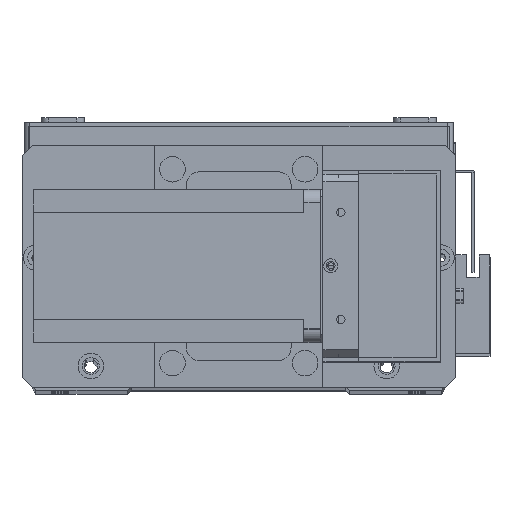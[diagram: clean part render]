
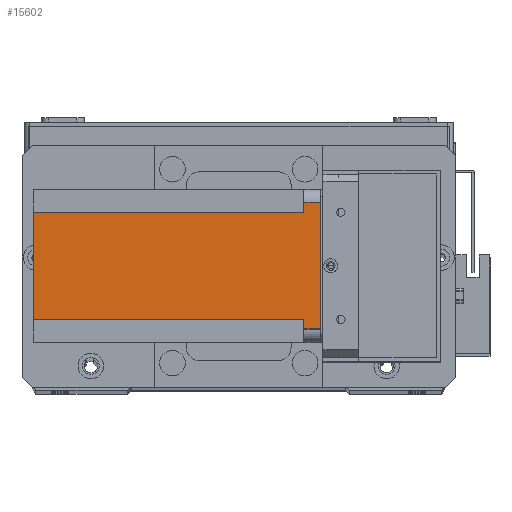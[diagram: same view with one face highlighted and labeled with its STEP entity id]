
A CAD part, top view. The second image highlights one B-rep face of the part: STEP entity #15602.
In plain terms, the highlighted planar face has unit normal (0, 0, 1) as drawn and (-1, 0, 0) by its records, which use the part's own axes.
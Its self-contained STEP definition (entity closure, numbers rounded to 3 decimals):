
#416 = DIRECTION ( 'NONE',  ( 0., 1., 0. ) ) ;
#1163 = VERTEX_POINT ( 'NONE', #27550 ) ;
#1375 = LINE ( 'NONE', #24754, #21708 ) ;
#1745 = LINE ( 'NONE', #30564, #26623 ) ;
#2895 = ORIENTED_EDGE ( 'NONE', *, *, #28637, .T. ) ;
#3801 = ORIENTED_EDGE ( 'NONE', *, *, #28718, .F. ) ;
#4384 = DIRECTION ( 'NONE',  ( 0., -1., 0. ) ) ;
#5599 = VECTOR ( 'NONE', #23773, 1000. ) ;
#7854 = CARTESIAN_POINT ( 'NONE',  ( 0., 51., -112.5 ) ) ;
#7948 = VECTOR ( 'NONE', #416, 1000. ) ;
#8293 = VERTEX_POINT ( 'NONE', #16085 ) ;
#9298 = CARTESIAN_POINT ( 'NONE',  ( 0., 51., -112.5 ) ) ;
#9588 = CARTESIAN_POINT ( 'NONE',  ( 0., 5., -6.5 ) ) ;
#9892 = VECTOR ( 'NONE', #4384, 1000. ) ;
#10283 = LINE ( 'NONE', #15137, #7948 ) ;
#10355 = DIRECTION ( 'NONE',  ( 0., 0., 1. ) ) ;
#10647 = VECTOR ( 'NONE', #11744, 1000. ) ;
#10779 = CARTESIAN_POINT ( 'NONE',  ( 0., 55., -112.5 ) ) ;
#11001 = CARTESIAN_POINT ( 'NONE',  ( 0., 55., -6.5 ) ) ;
#11427 = LINE ( 'NONE', #30365, #5599 ) ;
#11744 = DIRECTION ( 'NONE',  ( 0., 0., 1. ) ) ;
#11965 = VERTEX_POINT ( 'NONE', #22186 ) ;
#12593 = VECTOR ( 'NONE', #24783, 1000. ) ;
#12692 = DIRECTION ( 'NONE',  ( 0., -1., 0. ) ) ;
#12737 = DIRECTION ( 'NONE',  ( -1., 0., 0. ) ) ;
#12769 = PLANE ( 'NONE',  #16892 ) ;
#12866 = VERTEX_POINT ( 'NONE', #14838 ) ;
#12959 = VECTOR ( 'NONE', #13265, 1000. ) ;
#13005 = CARTESIAN_POINT ( 'NONE',  ( 0., 0., -112.5 ) ) ;
#13265 = DIRECTION ( 'NONE',  ( 0., 0., -1. ) ) ;
#13752 = LINE ( 'NONE', #10779, #12959 ) ;
#14525 = DIRECTION ( 'NONE',  ( 0., 0., -1. ) ) ;
#14838 = CARTESIAN_POINT ( 'NONE',  ( 0., 5., 0. ) ) ;
#15137 = CARTESIAN_POINT ( 'NONE',  ( 0., 0., -6.5 ) ) ;
#15169 = CARTESIAN_POINT ( 'NONE',  ( 0., 0., 0. ) ) ;
#15602 = ADVANCED_FACE ( 'NONE', ( #23260 ), #12769, .T. ) ;
#15693 = VERTEX_POINT ( 'NONE', #11001 ) ;
#16085 = CARTESIAN_POINT ( 'NONE',  ( 0., 51., -6.5 ) ) ;
#16322 = LINE ( 'NONE', #21523, #9892 ) ;
#16892 = AXIS2_PLACEMENT_3D ( 'NONE', #13005, #12737, #12692 ) ;
#17568 = VERTEX_POINT ( 'NONE', #9588 ) ;
#19987 = VERTEX_POINT ( 'NONE', #7854 ) ;
#21350 = CARTESIAN_POINT ( 'NONE',  ( 0., 9., -6.5 ) ) ;
#21523 = CARTESIAN_POINT ( 'NONE',  ( 0., 0., -112.5 ) ) ;
#21708 = VECTOR ( 'NONE', #10355, 1000. ) ;
#22011 = EDGE_LOOP ( 'NONE', ( #26728, #28406, #29054, #29809, #30077, #30872, #2895, #3801 ) ) ;
#22186 = CARTESIAN_POINT ( 'NONE',  ( 0., 55., 0. ) ) ;
#22697 = VERTEX_POINT ( 'NONE', #21350 ) ;
#23260 = FACE_OUTER_BOUND ( 'NONE', #22011, .T. ) ;
#23533 = LINE ( 'NONE', #9298, #10647 ) ;
#23773 = DIRECTION ( 'NONE',  ( 0., 1., 0. ) ) ;
#24588 = LINE ( 'NONE', #15169, #12593 ) ;
#24754 = CARTESIAN_POINT ( 'NONE',  ( 0., 5., -112.5 ) ) ;
#24783 = DIRECTION ( 'NONE',  ( 0., -1., 0. ) ) ;
#26623 = VECTOR ( 'NONE', #14525, 1000. ) ;
#26728 = ORIENTED_EDGE ( 'NONE', *, *, #28415, .F. ) ;
#27550 = CARTESIAN_POINT ( 'NONE',  ( 0., 9., -112.5 ) ) ;
#28034 = EDGE_CURVE ( 'NONE', #11965, #12866, #24588, .T. ) ;
#28406 = ORIENTED_EDGE ( 'NONE', *, *, #28420, .T. ) ;
#28415 = EDGE_CURVE ( 'NONE', #17568, #22697, #10283, .T. ) ;
#28420 = EDGE_CURVE ( 'NONE', #17568, #12866, #1375, .T. ) ;
#28473 = EDGE_CURVE ( 'NONE', #11965, #15693, #13752, .T. ) ;
#28610 = EDGE_CURVE ( 'NONE', #8293, #15693, #11427, .T. ) ;
#28612 = EDGE_CURVE ( 'NONE', #19987, #8293, #23533, .T. ) ;
#28637 = EDGE_CURVE ( 'NONE', #19987, #1163, #16322, .T. ) ;
#28718 = EDGE_CURVE ( 'NONE', #22697, #1163, #1745, .T. ) ;
#29054 = ORIENTED_EDGE ( 'NONE', *, *, #28034, .F. ) ;
#29809 = ORIENTED_EDGE ( 'NONE', *, *, #28473, .T. ) ;
#30077 = ORIENTED_EDGE ( 'NONE', *, *, #28610, .F. ) ;
#30365 = CARTESIAN_POINT ( 'NONE',  ( 0., 60., -6.5 ) ) ;
#30564 = CARTESIAN_POINT ( 'NONE',  ( 0., 9., -112.5 ) ) ;
#30872 = ORIENTED_EDGE ( 'NONE', *, *, #28612, .F. ) ;
